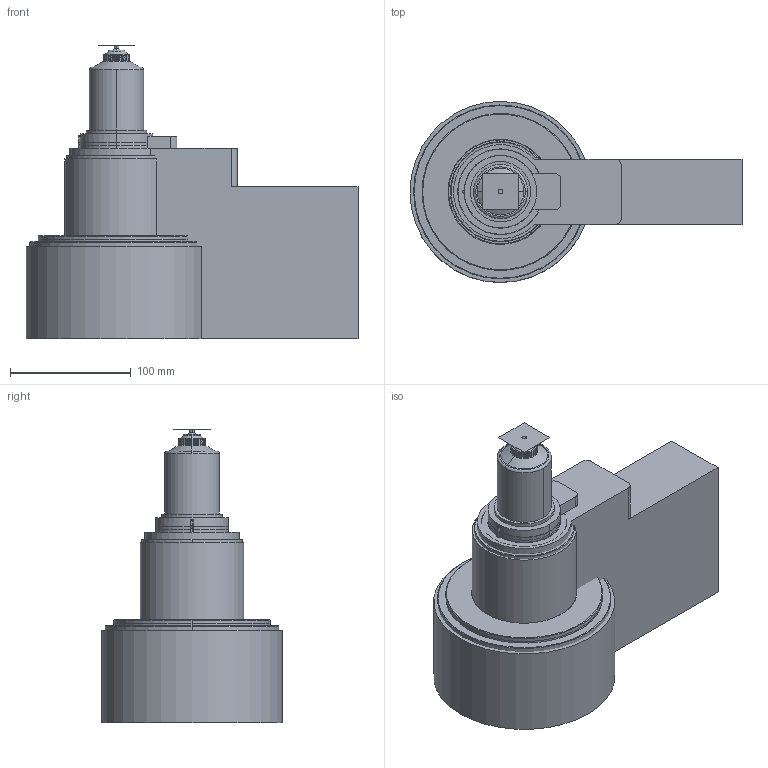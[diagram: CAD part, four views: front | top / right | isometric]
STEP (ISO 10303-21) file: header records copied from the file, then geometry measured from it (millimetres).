
FILE_DESCRIPTION (( 'STEP AP214' ), '1' );
FILE_NAME ('16SVP-06_VSW.STEP', '2021-08-16T08:17:43', ( '' ), ( '' ), 'SwSTEP 2.0', 'SolidWorks 2018', '' );
FILE_SCHEMA (( 'AUTOMOTIVE_DESIGN' ));
Length unit declared in the file: millimetre
Products named in the file (3): cutout_VSW; nozzle_VSW; 16SVP-06_VSW
Assembly tree (2 placements, depth 2):
  16SVP-06_VSW
    nozzle_VSW
    cutout_VSW
Bounding box: 275 x 149.99 x 243.3 mm (x, y, z)
Volume: 3041965.1 mm3; surface area: 649363.1 mm2
Topology: 1 solids, 47 shells, 2430 faces, 6031 edges, 3748 vertices
Faces by surface type: plane 868, cylinder 703, cone 372, bspline 287, torus 182, sphere 18
Entity records: 106846 total; most frequent: CARTESIAN_POINT 49654, ORIENTED_EDGE 11918, DIRECTION 11411, EDGE_CURVE 5961, AXIS2_PLACEMENT_3D 4339, VERTEX_POINT 3736, LINE 2733, VECTOR 2733
